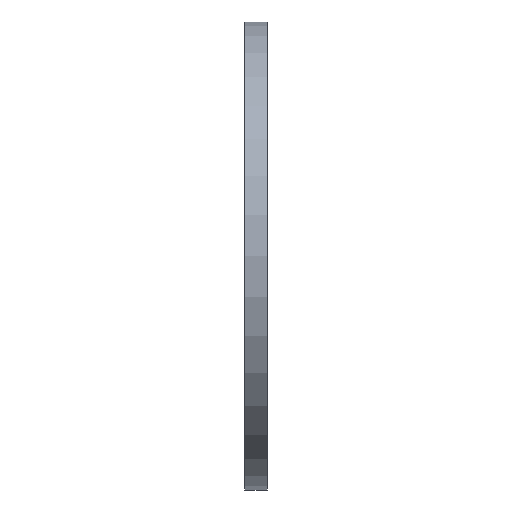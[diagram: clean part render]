
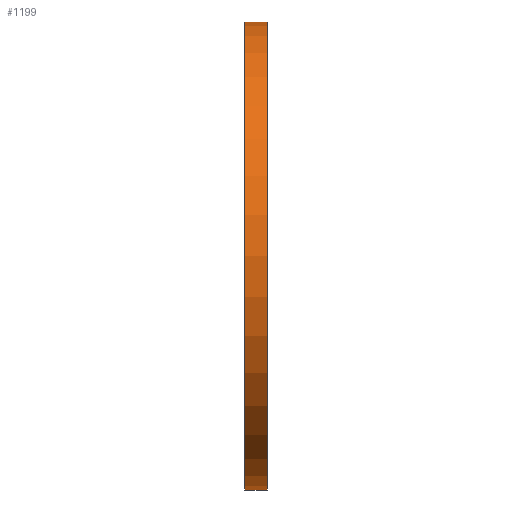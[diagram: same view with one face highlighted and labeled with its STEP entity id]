
A CAD part, left-side view. The second image highlights one B-rep face of the part: STEP entity #1199.
In plain terms, the highlighted cylindrical face has radius 167.5 mm (diameter 335 mm), a partial arc.
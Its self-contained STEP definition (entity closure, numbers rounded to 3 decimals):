
#33 = CARTESIAN_POINT ( 'NONE',  ( 0., 0., -167.5 ) ) ;
#39 = AXIS2_PLACEMENT_3D ( 'NONE', #220, #743, #447 ) ;
#87 = ORIENTED_EDGE ( 'NONE', *, *, #518, .T. ) ;
#90 = AXIS2_PLACEMENT_3D ( 'NONE', #1220, #664, #1145 ) ;
#123 = EDGE_CURVE ( 'NONE', #782, #484, #932, .T. ) ;
#152 = AXIS2_PLACEMENT_3D ( 'NONE', #1203, #819, #458 ) ;
#165 = EDGE_LOOP ( 'NONE', ( #1028, #1153, #87, #580 ) ) ;
#207 = VERTEX_POINT ( 'NONE', #914 ) ;
#220 = CARTESIAN_POINT ( 'NONE',  ( 0., 16., 0. ) ) ;
#314 = VERTEX_POINT ( 'NONE', #1131 ) ;
#319 = CARTESIAN_POINT ( 'NONE',  ( 0., 0., 167.5 ) ) ;
#376 = VECTOR ( 'NONE', #1077, 1000. ) ;
#447 = DIRECTION ( 'NONE',  ( 0., 0., -1. ) ) ;
#458 = DIRECTION ( 'NONE',  ( 0., 0., -1. ) ) ;
#484 = VERTEX_POINT ( 'NONE', #33 ) ;
#518 = EDGE_CURVE ( 'NONE', #314, #484, #1163, .T. ) ;
#524 = CIRCLE ( 'NONE', #39, 167.5 ) ;
#542 = EDGE_CURVE ( 'NONE', #207, #314, #524, .T. ) ;
#547 = VECTOR ( 'NONE', #988, 1000. ) ;
#580 = ORIENTED_EDGE ( 'NONE', *, *, #123, .F. ) ;
#593 = CYLINDRICAL_SURFACE ( 'NONE', #90, 167.5 ) ;
#664 = DIRECTION ( 'NONE',  ( 0., -1., 0. ) ) ;
#743 = DIRECTION ( 'NONE',  ( 0., -1., 0. ) ) ;
#770 = FACE_OUTER_BOUND ( 'NONE', #165, .T. ) ;
#782 = VERTEX_POINT ( 'NONE', #954 ) ;
#819 = DIRECTION ( 'NONE',  ( 0., -1., 0. ) ) ;
#914 = CARTESIAN_POINT ( 'NONE',  ( 0., 16., 167.5 ) ) ;
#927 = EDGE_CURVE ( 'NONE', #207, #782, #1154, .T. ) ;
#932 = CIRCLE ( 'NONE', #152, 167.5 ) ;
#954 = CARTESIAN_POINT ( 'NONE',  ( 0., 0., 167.5 ) ) ;
#988 = DIRECTION ( 'NONE',  ( 0., -1., 0. ) ) ;
#1028 = ORIENTED_EDGE ( 'NONE', *, *, #927, .F. ) ;
#1069 = CARTESIAN_POINT ( 'NONE',  ( 0., 0., -167.5 ) ) ;
#1077 = DIRECTION ( 'NONE',  ( 0., -1., 0. ) ) ;
#1131 = CARTESIAN_POINT ( 'NONE',  ( 0., 16., -167.5 ) ) ;
#1145 = DIRECTION ( 'NONE',  ( 0., 0., -1. ) ) ;
#1153 = ORIENTED_EDGE ( 'NONE', *, *, #542, .T. ) ;
#1154 = LINE ( 'NONE', #319, #376 ) ;
#1163 = LINE ( 'NONE', #1069, #547 ) ;
#1199 = ADVANCED_FACE ( 'NONE', ( #770 ), #593, .T. ) ;
#1203 = CARTESIAN_POINT ( 'NONE',  ( 0., 0., 0. ) ) ;
#1220 = CARTESIAN_POINT ( 'NONE',  ( 0., 0., 0. ) ) ;
